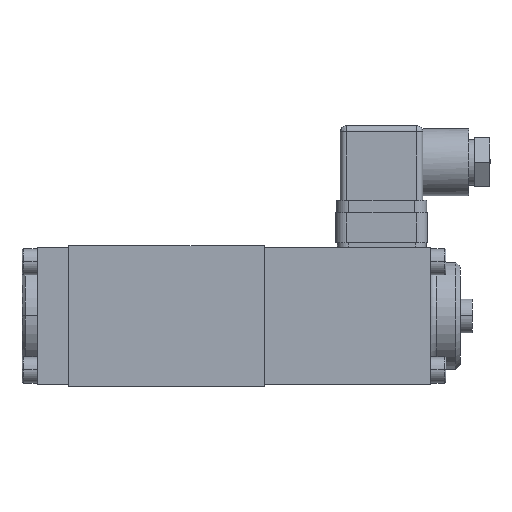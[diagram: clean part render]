
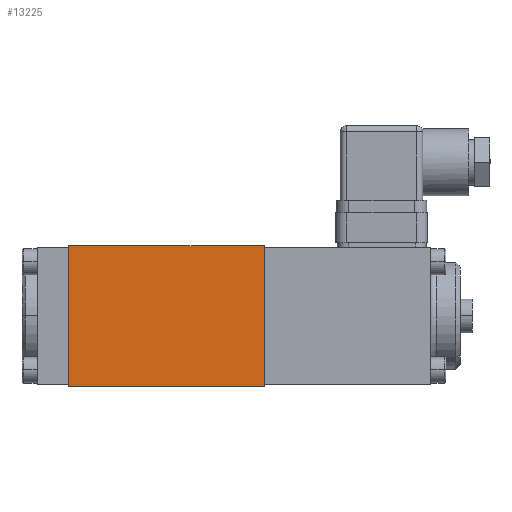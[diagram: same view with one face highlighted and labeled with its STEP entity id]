
A CAD part, top view. The second image highlights one B-rep face of the part: STEP entity #13225.
In plain terms, the highlighted planar face has unit normal (0, 0, 1).
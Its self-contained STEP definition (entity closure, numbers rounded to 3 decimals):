
#759 = VECTOR ( 'NONE', #17025, 1000. ) ;
#1191 = LINE ( 'NONE', #19586, #759 ) ;
#2359 = CARTESIAN_POINT ( 'NONE',  ( 64., 23., 23. ) ) ;
#4534 = VERTEX_POINT ( 'NONE', #19304 ) ;
#4944 = EDGE_CURVE ( 'NONE', #14551, #4534, #1191, .T. ) ;
#5913 = CARTESIAN_POINT ( 'NONE',  ( 64., -23., 23. ) ) ;
#10328 = DIRECTION ( 'NONE',  ( 0., -1., 0. ) ) ;
#10912 = CARTESIAN_POINT ( 'NONE',  ( 64., -23., 23. ) ) ;
#13184 = VECTOR ( 'NONE', #22146, 1000. ) ;
#13225 = ADVANCED_FACE ( 'NONE', ( #22869 ), #18450, .F. ) ;
#13262 = ORIENTED_EDGE ( 'NONE', *, *, #25912, .F. ) ;
#13453 = CARTESIAN_POINT ( 'NONE',  ( 64., -23., 23. ) ) ;
#14443 = CARTESIAN_POINT ( 'NONE',  ( 0., 23., 23. ) ) ;
#14509 = ORIENTED_EDGE ( 'NONE', *, *, #4944, .T. ) ;
#14551 = VERTEX_POINT ( 'NONE', #14443 ) ;
#15795 = LINE ( 'NONE', #13453, #21218 ) ;
#16239 = DIRECTION ( 'NONE',  ( -1., 0., 0. ) ) ;
#16532 = DIRECTION ( 'NONE',  ( 0., 0., -1. ) ) ;
#16535 = CARTESIAN_POINT ( 'NONE',  ( 64., -23., 23. ) ) ;
#17025 = DIRECTION ( 'NONE',  ( 0., -1., 0. ) ) ;
#18450 = PLANE ( 'NONE',  #19053 ) ;
#18854 = VECTOR ( 'NONE', #10328, 1000. ) ;
#19053 = AXIS2_PLACEMENT_3D ( 'NONE', #16535, #16532, #16239 ) ;
#19131 = LINE ( 'NONE', #10912, #18854 ) ;
#19304 = CARTESIAN_POINT ( 'NONE',  ( 0., -23., 23. ) ) ;
#19586 = CARTESIAN_POINT ( 'NONE',  ( 0., -23., 23. ) ) ;
#20757 = VERTEX_POINT ( 'NONE', #5913 ) ;
#21218 = VECTOR ( 'NONE', #26635, 1000. ) ;
#21303 = EDGE_LOOP ( 'NONE', ( #14509, #29888, #13262, #34398 ) ) ;
#22146 = DIRECTION ( 'NONE',  ( -1., 0., 0. ) ) ;
#22448 = LINE ( 'NONE', #23417, #13184 ) ;
#22515 = VERTEX_POINT ( 'NONE', #2359 ) ;
#22869 = FACE_OUTER_BOUND ( 'NONE', #21303, .T. ) ;
#23218 = EDGE_CURVE ( 'NONE', #22515, #14551, #22448, .T. ) ;
#23417 = CARTESIAN_POINT ( 'NONE',  ( 64., 23., 23. ) ) ;
#25912 = EDGE_CURVE ( 'NONE', #22515, #20757, #19131, .T. ) ;
#26635 = DIRECTION ( 'NONE',  ( -1., 0., 0. ) ) ;
#28104 = EDGE_CURVE ( 'NONE', #20757, #4534, #15795, .T. ) ;
#29888 = ORIENTED_EDGE ( 'NONE', *, *, #28104, .F. ) ;
#34398 = ORIENTED_EDGE ( 'NONE', *, *, #23218, .T. ) ;
